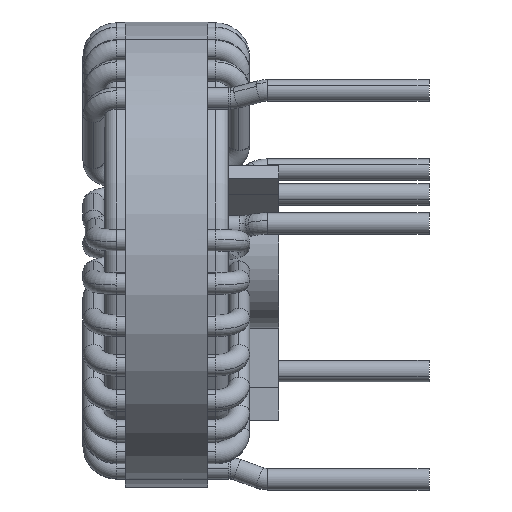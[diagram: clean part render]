
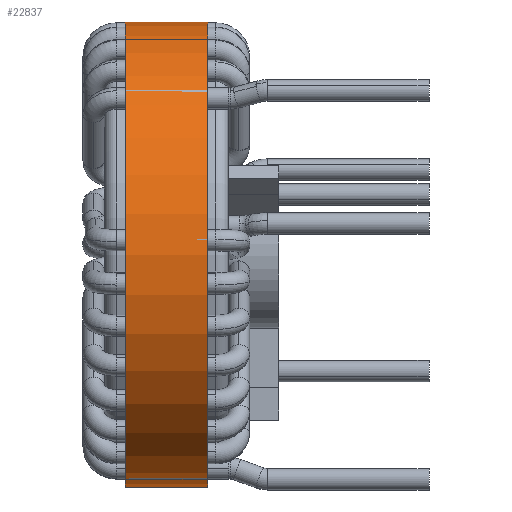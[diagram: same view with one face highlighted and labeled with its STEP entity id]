
A CAD part, left-side view. The second image highlights one B-rep face of the part: STEP entity #22837.
In plain terms, the highlighted cylindrical face has radius 28.23 mm (diameter 56.46 mm), a partial arc.
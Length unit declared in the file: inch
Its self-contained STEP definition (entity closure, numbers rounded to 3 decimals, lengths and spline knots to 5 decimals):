
#916 = ORIENTED_EDGE ( 'NONE', *, *, #17069, .T. ) ;
#1089 = VERTEX_POINT ( 'NONE', #3539 ) ;
#1492 = CIRCLE ( 'NONE', #6006, 1.11142 ) ;
#3539 = CARTESIAN_POINT ( 'NONE',  ( 0., 0.49242, 1.11142 ) ) ;
#3627 = VERTEX_POINT ( 'NONE', #8943 ) ;
#4964 = VECTOR ( 'NONE', #9553, 39.37008 ) ;
#5083 = AXIS2_PLACEMENT_3D ( 'NONE', #15119, #14746, #15878 ) ;
#5116 = CARTESIAN_POINT ( 'NONE',  ( 0., 0.49242, 1.11142 ) ) ;
#5372 = DIRECTION ( 'NONE',  ( 0., 0., -1. ) ) ;
#5677 = CARTESIAN_POINT ( 'NONE',  ( 0., 0.49242, -1.11142 ) ) ;
#5724 = EDGE_CURVE ( 'NONE', #17314, #1089, #1492, .T. ) ;
#5992 = VERTEX_POINT ( 'NONE', #20411 ) ;
#6006 = AXIS2_PLACEMENT_3D ( 'NONE', #12483, #17354, #7295 ) ;
#6399 = LINE ( 'NONE', #5677, #19555 ) ;
#6814 = FACE_OUTER_BOUND ( 'NONE', #13747, .T. ) ;
#6861 = EDGE_CURVE ( 'NONE', #5992, #3627, #8702, .T. ) ;
#7164 = DIRECTION ( 'NONE',  ( 0., -1., 0. ) ) ;
#7295 = DIRECTION ( 'NONE',  ( 0., 0., 1. ) ) ;
#7552 = ORIENTED_EDGE ( 'NONE', *, *, #20885, .F. ) ;
#7931 = ORIENTED_EDGE ( 'NONE', *, *, #6861, .T. ) ;
#8679 = CARTESIAN_POINT ( 'NONE',  ( 0., 0.49242, -1.11142 ) ) ;
#8702 = CIRCLE ( 'NONE', #5083, 1.11142 ) ;
#8943 = CARTESIAN_POINT ( 'NONE',  ( 0., 0.09872, 1.11142 ) ) ;
#9553 = DIRECTION ( 'NONE',  ( 0., -1., 0. ) ) ;
#12483 = CARTESIAN_POINT ( 'NONE',  ( 0., 0.49242, 0. ) ) ;
#13747 = EDGE_LOOP ( 'NONE', ( #7552, #21370, #916, #7931 ) ) ;
#14746 = DIRECTION ( 'NONE',  ( 0., 1., 0. ) ) ;
#15119 = CARTESIAN_POINT ( 'NONE',  ( 0., 0.09872, 0. ) ) ;
#15416 = CYLINDRICAL_SURFACE ( 'NONE', #18487, 1.11142 ) ;
#15878 = DIRECTION ( 'NONE',  ( 0., 0., 1. ) ) ;
#17069 = EDGE_CURVE ( 'NONE', #17314, #5992, #6399, .T. ) ;
#17314 = VERTEX_POINT ( 'NONE', #8679 ) ;
#17354 = DIRECTION ( 'NONE',  ( 0., 1., 0. ) ) ;
#17953 = DIRECTION ( 'NONE',  ( 0., -1., 0. ) ) ;
#18487 = AXIS2_PLACEMENT_3D ( 'NONE', #21360, #7164, #5372 ) ;
#19555 = VECTOR ( 'NONE', #17953, 39.37008 ) ;
#19596 = LINE ( 'NONE', #5116, #4964 ) ;
#20411 = CARTESIAN_POINT ( 'NONE',  ( 0., 0.09872, -1.11142 ) ) ;
#20885 = EDGE_CURVE ( 'NONE', #1089, #3627, #19596, .T. ) ;
#21360 = CARTESIAN_POINT ( 'NONE',  ( 0., 0.49242, 0. ) ) ;
#21370 = ORIENTED_EDGE ( 'NONE', *, *, #5724, .F. ) ;
#22837 = ADVANCED_FACE ( 'NONE', ( #6814 ), #15416, .T. ) ;
